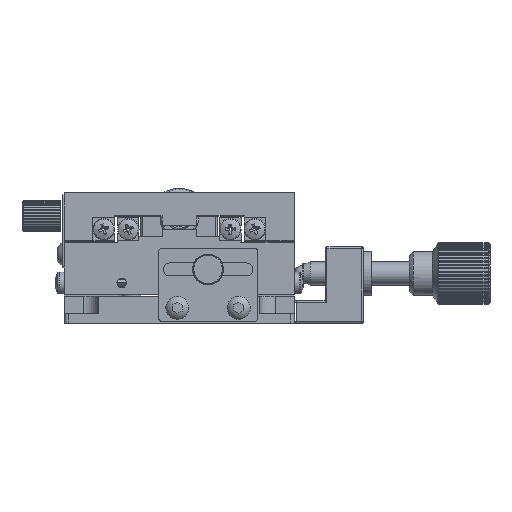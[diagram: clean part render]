
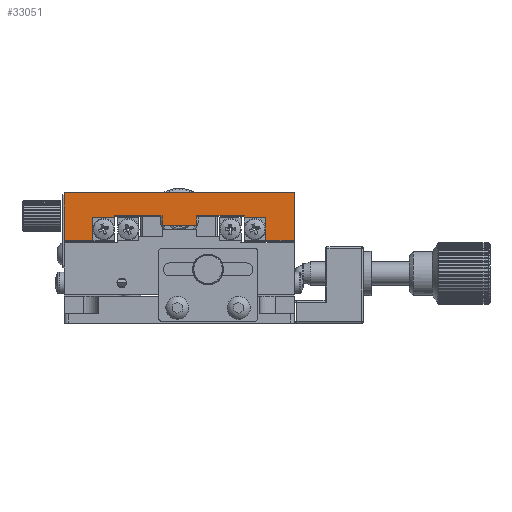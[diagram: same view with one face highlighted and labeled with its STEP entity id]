
A CAD part, top view. The second image highlights one B-rep face of the part: STEP entity #33051.
In plain terms, the highlighted planar face has unit normal (0, 0, 1).
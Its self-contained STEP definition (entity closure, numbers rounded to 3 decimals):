
#4085 = CARTESIAN_POINT ( 'NONE',  ( 130.508, -37.139, 12.482 ) ) ;
#4093 = CARTESIAN_POINT ( 'NONE',  ( 130.508, -39.639, 12.482 ) ) ;
#4105 = CARTESIAN_POINT ( 'NONE',  ( 121.508, -39.639, 12.482 ) ) ;
#4124 = CARTESIAN_POINT ( 'NONE',  ( 121.508, -37.139, 12.482 ) ) ;
#4161 = CARTESIAN_POINT ( 'NONE',  ( 156.008, -43.639, 12.482 ) ) ;
#4162 = CARTESIAN_POINT ( 'NONE',  ( 96.008, -31.139, 12.482 ) ) ;
#4168 = CARTESIAN_POINT ( 'NONE',  ( 148.508, -43.639, 12.482 ) ) ;
#4202 = CARTESIAN_POINT ( 'NONE',  ( 156.008, -31.139, 12.482 ) ) ;
#4372 = CARTESIAN_POINT ( 'NONE',  ( 96.008, -43.639, 12.482 ) ) ;
#4414 = CARTESIAN_POINT ( 'NONE',  ( 143.008, -37.139, 12.482 ) ) ;
#4446 = CARTESIAN_POINT ( 'NONE',  ( 103.508, -43.639, 12.482 ) ) ;
#4458 = CARTESIAN_POINT ( 'NONE',  ( 109.008, -37.639, 12.482 ) ) ;
#4466 = CARTESIAN_POINT ( 'NONE',  ( 143.008, -37.639, 12.482 ) ) ;
#4473 = CARTESIAN_POINT ( 'NONE',  ( 109.008, -37.139, 12.482 ) ) ;
#4479 = CARTESIAN_POINT ( 'NONE',  ( 103.508, -37.639, 12.482 ) ) ;
#4485 = CARTESIAN_POINT ( 'NONE',  ( 148.508, -37.639, 12.482 ) ) ;
#5783 = ORIENTED_EDGE ( 'NONE', *, *, #23521, .T. ) ;
#5784 = ORIENTED_EDGE ( 'NONE', *, *, #23603, .T. ) ;
#5785 = ORIENTED_EDGE ( 'NONE', *, *, #23520, .T. ) ;
#5786 = ORIENTED_EDGE ( 'NONE', *, *, #23523, .T. ) ;
#5787 = ORIENTED_EDGE ( 'NONE', *, *, #23615, .F. ) ;
#5788 = ORIENTED_EDGE ( 'NONE', *, *, #23473, .F. ) ;
#5789 = ORIENTED_EDGE ( 'NONE', *, *, #23527, .F. ) ;
#5790 = ORIENTED_EDGE ( 'NONE', *, *, #23440, .F. ) ;
#5791 = ORIENTED_EDGE ( 'NONE', *, *, #23449, .F. ) ;
#5792 = ORIENTED_EDGE ( 'NONE', *, *, #23476, .F. ) ;
#5793 = ORIENTED_EDGE ( 'NONE', *, *, #23626, .F. ) ;
#5794 = ORIENTED_EDGE ( 'NONE', *, *, #23648, .F. ) ;
#5795 = ORIENTED_EDGE ( 'NONE', *, *, #23662, .F. ) ;
#5796 = ORIENTED_EDGE ( 'NONE', *, *, #23658, .F. ) ;
#5797 = ORIENTED_EDGE ( 'NONE', *, *, #23667, .F. ) ;
#5798 = ORIENTED_EDGE ( 'NONE', *, *, #23552, .T. ) ;
#17160 = CARTESIAN_POINT ( 'NONE',  ( 96.008, -31.139, 12.482 ) ) ;
#17174 = DIRECTION ( 'NONE',  ( -1., 0., 0. ) ) ;
#17202 = CARTESIAN_POINT ( 'NONE',  ( 148.508, -37.639, 12.482 ) ) ;
#17207 = DIRECTION ( 'NONE',  ( 0., 1., 0. ) ) ;
#17222 = CARTESIAN_POINT ( 'NONE',  ( 121.508, -37.139, 12.482 ) ) ;
#17233 = DIRECTION ( 'NONE',  ( 0., 1., 0. ) ) ;
#17277 = CARTESIAN_POINT ( 'NONE',  ( 109.008, -37.139, 12.482 ) ) ;
#17289 = DIRECTION ( 'NONE',  ( -1., 0., 0. ) ) ;
#17305 = CARTESIAN_POINT ( 'NONE',  ( 109.008, -37.639, 12.482 ) ) ;
#17312 = CARTESIAN_POINT ( 'NONE',  ( 103.508, -37.639, 12.482 ) ) ;
#17313 = DIRECTION ( 'NONE',  ( -1., 0., 0. ) ) ;
#17321 = DIRECTION ( 'NONE',  ( 0., -1., 0. ) ) ;
#17331 = CARTESIAN_POINT ( 'NONE',  ( 103.508, -43.639, 12.482 ) ) ;
#17332 = DIRECTION ( 'NONE',  ( 0., -1., 0. ) ) ;
#18692 = EDGE_LOOP ( 'NONE', ( #5798, #5797, #5796, #5795, #5794, #5793, #5792, #5791, #5790, #5789, #5788, #5787, #5786, #5785, #5784, #5783 ) ) ;
#21980 = VECTOR ( 'NONE', #17332, 1000. ) ;
#21982 = LINE ( 'NONE', #17331, #21980 ) ;
#21990 = VECTOR ( 'NONE', #17321, 1000. ) ;
#21992 = LINE ( 'NONE', #17305, #21990 ) ;
#21995 = VECTOR ( 'NONE', #17313, 1000. ) ;
#21997 = LINE ( 'NONE', #17312, #21995 ) ;
#22011 = VECTOR ( 'NONE', #17289, 1000. ) ;
#22014 = LINE ( 'NONE', #17277, #22011 ) ;
#22043 = VECTOR ( 'NONE', #17233, 1000. ) ;
#22049 = LINE ( 'NONE', #17222, #22043 ) ;
#22061 = VECTOR ( 'NONE', #17207, 1000. ) ;
#22063 = LINE ( 'NONE', #17202, #22061 ) ;
#22077 = VECTOR ( 'NONE', #17174, 1000. ) ;
#22080 = LINE ( 'NONE', #17160, #22077 ) ;
#22157 = VECTOR ( 'NONE', #35065, 1000. ) ;
#22161 = LINE ( 'NONE', #35054, #22157 ) ;
#22193 = VECTOR ( 'NONE', #34999, 1000. ) ;
#22199 = VECTOR ( 'NONE', #34988, 1000. ) ;
#22202 = LINE ( 'NONE', #34994, #22193 ) ;
#22203 = VECTOR ( 'NONE', #34984, 1000. ) ;
#22205 = VECTOR ( 'NONE', #34982, 1000. ) ;
#22206 = LINE ( 'NONE', #34983, #22203 ) ;
#22208 = LINE ( 'NONE', #34981, #22205 ) ;
#22218 = LINE ( 'NONE', #34970, #22199 ) ;
#22280 = VECTOR ( 'NONE', #34871, 1000. ) ;
#22283 = VECTOR ( 'NONE', #34858, 1000. ) ;
#22285 = LINE ( 'NONE', #34877, #22280 ) ;
#22287 = LINE ( 'NONE', #34863, #22283 ) ;
#22314 = VECTOR ( 'NONE', #34802, 1000. ) ;
#22315 = LINE ( 'NONE', #34793, #22314 ) ;
#22324 = VECTOR ( 'NONE', #34774, 1000. ) ;
#22333 = LINE ( 'NONE', #34757, #22324 ) ;
#23440 = EDGE_CURVE ( 'NONE', #32631, #32485, #22333, .T. ) ;
#23449 = EDGE_CURVE ( 'NONE', #32485, #32487, #22315, .T. ) ;
#23473 = EDGE_CURVE ( 'NONE', #32663, #32658, #22287, .T. ) ;
#23476 = EDGE_CURVE ( 'NONE', #32487, #32491, #22285, .T. ) ;
#23520 = EDGE_CURVE ( 'NONE', #32517, #32534, #22208, .T. ) ;
#23521 = EDGE_CURVE ( 'NONE', #32521, #32613, #22206, .T. ) ;
#23523 = EDGE_CURVE ( 'NONE', #32519, #32517, #22218, .T. ) ;
#23527 = EDGE_CURVE ( 'NONE', #32658, #32631, #22202, .T. ) ;
#23552 = EDGE_CURVE ( 'NONE', #32613, #32648, #22161, .T. ) ;
#23603 = EDGE_CURVE ( 'NONE', #32534, #32521, #22080, .T. ) ;
#23615 = EDGE_CURVE ( 'NONE', #32519, #32663, #22063, .T. ) ;
#23626 = EDGE_CURVE ( 'NONE', #32491, #32498, #22049, .T. ) ;
#23648 = EDGE_CURVE ( 'NONE', #32498, #32660, #22014, .T. ) ;
#23658 = EDGE_CURVE ( 'NONE', #32656, #32661, #21997, .T. ) ;
#23662 = EDGE_CURVE ( 'NONE', #32660, #32656, #21992, .T. ) ;
#23667 = EDGE_CURVE ( 'NONE', #32661, #32648, #21982, .T. ) ;
#26674 = AXIS2_PLACEMENT_3D ( 'NONE', #28298, #28302, #28303 ) ;
#28298 = CARTESIAN_POINT ( 'NONE',  ( 126.008, -37.389, 12.482 ) ) ;
#28299 = PLANE ( 'NONE',  #26674 ) ;
#28302 = DIRECTION ( 'NONE',  ( 0., 0., -1. ) ) ;
#28303 = DIRECTION ( 'NONE',  ( -1., 0., 0. ) ) ;
#32485 = VERTEX_POINT ( 'NONE', #4085 ) ;
#32487 = VERTEX_POINT ( 'NONE', #4093 ) ;
#32491 = VERTEX_POINT ( 'NONE', #4105 ) ;
#32498 = VERTEX_POINT ( 'NONE', #4124 ) ;
#32517 = VERTEX_POINT ( 'NONE', #4161 ) ;
#32519 = VERTEX_POINT ( 'NONE', #4168 ) ;
#32521 = VERTEX_POINT ( 'NONE', #4162 ) ;
#32534 = VERTEX_POINT ( 'NONE', #4202 ) ;
#32613 = VERTEX_POINT ( 'NONE', #4372 ) ;
#32631 = VERTEX_POINT ( 'NONE', #4414 ) ;
#32648 = VERTEX_POINT ( 'NONE', #4446 ) ;
#32656 = VERTEX_POINT ( 'NONE', #4458 ) ;
#32658 = VERTEX_POINT ( 'NONE', #4466 ) ;
#32660 = VERTEX_POINT ( 'NONE', #4473 ) ;
#32661 = VERTEX_POINT ( 'NONE', #4479 ) ;
#32663 = VERTEX_POINT ( 'NONE', #4485 ) ;
#33051 = ADVANCED_FACE ( 'NONE', ( #41704 ), #28299, .F. ) ;
#34757 = CARTESIAN_POINT ( 'NONE',  ( 130.508, -37.139, 12.482 ) ) ;
#34774 = DIRECTION ( 'NONE',  ( -1., 0., 0. ) ) ;
#34793 = CARTESIAN_POINT ( 'NONE',  ( 130.508, -39.639, 12.482 ) ) ;
#34802 = DIRECTION ( 'NONE',  ( 0., -1., 0. ) ) ;
#34858 = DIRECTION ( 'NONE',  ( -1., 0., 0. ) ) ;
#34863 = CARTESIAN_POINT ( 'NONE',  ( 143.008, -37.639, 12.482 ) ) ;
#34871 = DIRECTION ( 'NONE',  ( -1., 0., 0. ) ) ;
#34877 = CARTESIAN_POINT ( 'NONE',  ( 121.508, -39.639, 12.482 ) ) ;
#34970 = CARTESIAN_POINT ( 'NONE',  ( 96.008, -43.639, 12.482 ) ) ;
#34981 = CARTESIAN_POINT ( 'NONE',  ( 156.008, -43.639, 12.482 ) ) ;
#34982 = DIRECTION ( 'NONE',  ( 0., 1., 0. ) ) ;
#34983 = CARTESIAN_POINT ( 'NONE',  ( 96.008, -43.639, 12.482 ) ) ;
#34984 = DIRECTION ( 'NONE',  ( 0., -1., 0. ) ) ;
#34988 = DIRECTION ( 'NONE',  ( 1., 0., 0. ) ) ;
#34994 = CARTESIAN_POINT ( 'NONE',  ( 143.008, -37.139, 12.482 ) ) ;
#34999 = DIRECTION ( 'NONE',  ( 0., 1., 0. ) ) ;
#35054 = CARTESIAN_POINT ( 'NONE',  ( 96.008, -43.639, 12.482 ) ) ;
#35065 = DIRECTION ( 'NONE',  ( 1., 0., 0. ) ) ;
#41704 = FACE_OUTER_BOUND ( 'NONE', #18692, .T. ) ;
